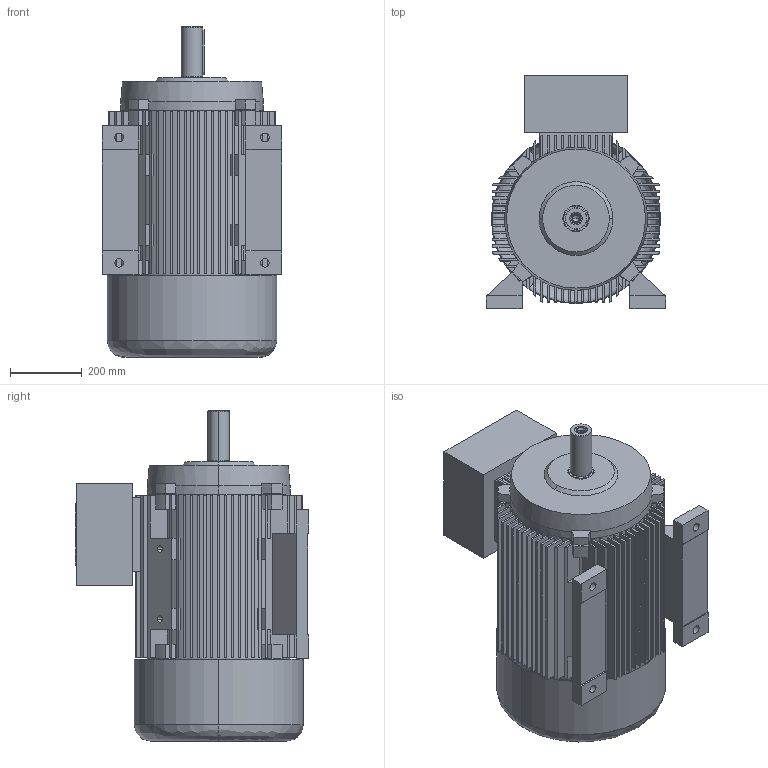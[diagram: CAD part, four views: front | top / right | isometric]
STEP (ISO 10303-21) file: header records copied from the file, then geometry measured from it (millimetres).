
FILE_DESCRIPTION (( 'STEP AP203' ), '1' );
FILE_NAME ('20.18427-_A 7AT 250M -2 B3 STANDK.STEP', '2018-04-24T12:20:14', ( '' ), ( '' ), 'SwSTEP 2.0', 'SolidWorks 2017', '' );
FILE_SCHEMA (( 'CONFIG_CONTROL_DESIGN' ));
Length unit declared in the file: millimetre
Products named in the file (1): 20.18427-_A 7AT 250M -2 B3 STANDK
Bounding box: 500 x 649 x 920 mm (x, y, z)
Volume: 49343986.6 mm3; surface area: 6111235 mm2
Topology: 8 solids, 8 shells, 813 faces, 2181 edges, 1433 vertices
Faces by surface type: plane 644, cylinder 118, cone 38, bspline 13
Entity records: 25957 total; most frequent: CARTESIAN_POINT 5255, ORIENTED_EDGE 4326, DIRECTION 4219, EDGE_CURVE 2163, VECTOR 1625, LINE 1625, VERTEX_POINT 1433, AXIS2_PLACEMENT_3D 1297
